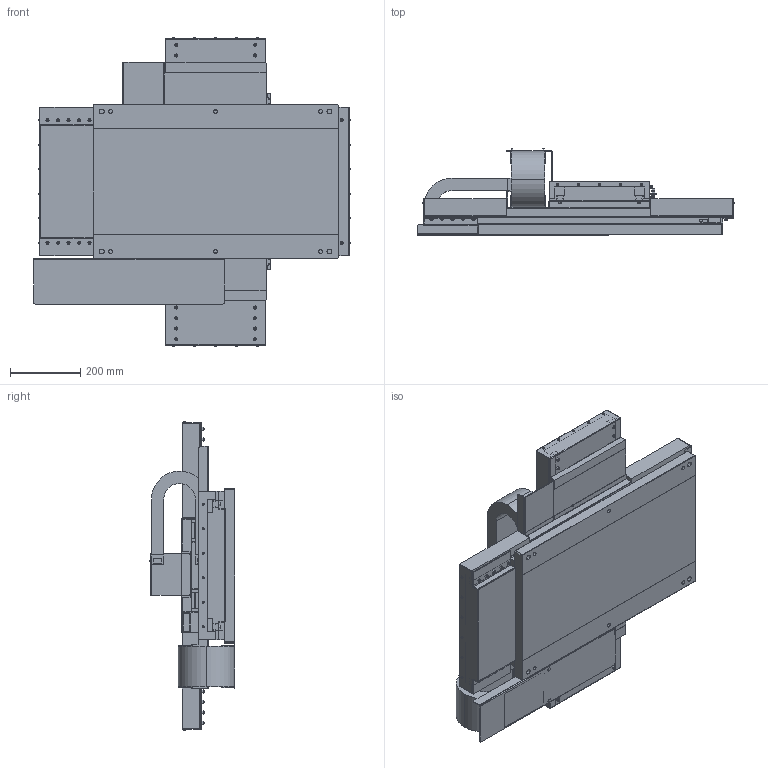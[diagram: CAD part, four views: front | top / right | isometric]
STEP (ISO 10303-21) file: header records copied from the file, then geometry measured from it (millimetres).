
FILE_DESCRIPTION (( 'STEP AP214' ), '1' );
FILE_NAME ('NST-D35B435A4BPJB_#2.00_0.STEP', '2021-04-08T07:57:08', ( '' ), ( '' ), 'SwSTEP 2.0', 'SolidWorks 2018', '' );
FILE_SCHEMA (( 'AUTOMOTIVE_DESIGN' ));
Length unit declared in the file: millimetre
Products named in the file (9): A6A03070_-側_Org; NST-D35B435A4BPJB_#2.00_0; A6A03060_JB +-側_Org; 17YK1250_Org; AUA02420; AUA02120; 17YK1450_Org; A6A03070_+側_Org; AUA02410
Assembly tree (9 placements, depth 2):
  NST-D35B435A4BPJB_#2.00_0
    AUA02410
    AUA02420
    AUA02120
    17YK1450_Org
    17YK1250_Org
    A6A03060_JB +-側_Org  x2
    A6A03070_+側_Org
    A6A03070_-側_Org
Bounding box: 905 x 245 x 880 mm (x, y, z)
Volume: 29665427.3 mm3; surface area: 4770818.8 mm2
Topology: 74 solids, 74 shells, 2974 faces, 7599 edges, 4867 vertices
Faces by surface type: plane 1918, cylinder 778, cone 130, torus 96, sphere 48, bspline 4
Entity records: 118649 total; most frequent: CARTESIAN_POINT 19362, ORIENTED_EDGE 14746, DIRECTION 14743, EDGE_CURVE 7373, AXIS2_PLACEMENT_3D 4938, LINE 4867, VECTOR 4867, VERTEX_POINT 4747
